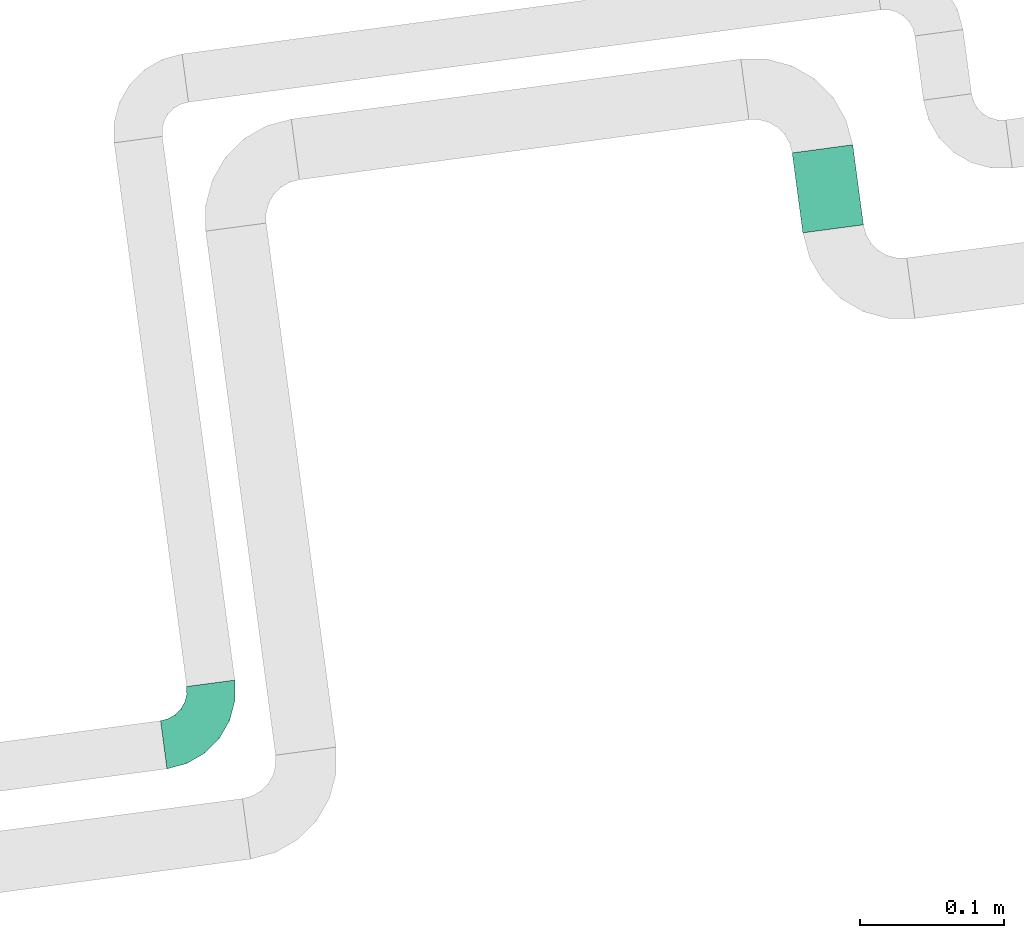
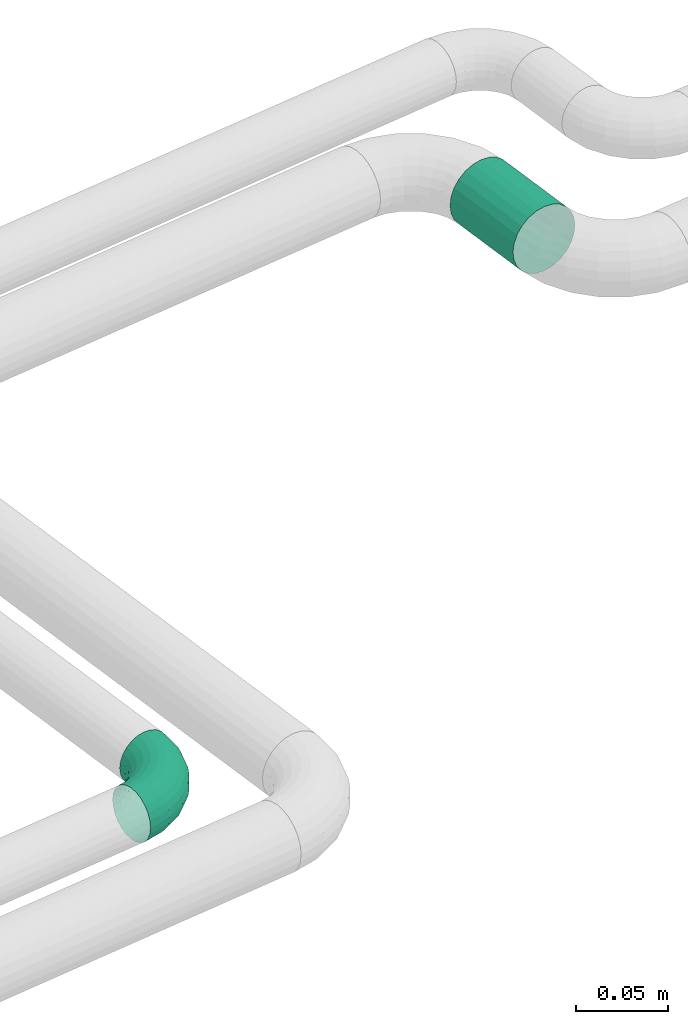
# One storey, part 358 of 374: 2 flow segments.
"""IFC2X3 building model written with IfcOpenShell, lengths in metres."""

from ifc_helpers import new_model, si_unit, direction, origin, place, context, subcontext, project, spatial, open_shell, surface_model, source, transform, mapped, element, save


model = new_model("IFC2X3")

# Units and contexts
model_context = context("Model", 3, precision=1e-05, world=origin(), true_north=direction((-0.4480736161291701, 0.8939966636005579)))
body_context = subcontext(model_context, "Body", "Model", "MODEL_VIEW")
ifc_project = project(units=[si_unit("LENGTHUNIT", "METRE"), si_unit("AREAUNIT", "SQUARE_METRE"), si_unit("VOLUMEUNIT", "CUBIC_METRE"), si_unit("PLANEANGLEUNIT", "RADIAN"), si_unit("THERMODYNAMICTEMPERATUREUNIT", "KELVIN"), si_unit("MASSUNIT", "GRAM", prefix="KILO"), si_unit("TIMEUNIT", "SECOND")], contexts=[model_context])

# Site, building, storey
site_placement = place(None, origin())
site = spatial("IfcSite", under=ifc_project, at=site_placement, Name="Site 1", CompositionType="ELEMENT")
building_placement = place(site_placement, origin())
building = spatial("IfcBuilding", under=site, at=building_placement, Name="Undefined", CompositionType="ELEMENT")
storey_placement = place(building_placement, origin())
storey = spatial("IfcBuildingStorey", under=building, at=storey_placement, Name="Rez de chauss\x8ee", CompositionType="ELEMENT", Elevation=0.0)

# Flow segments
shared_shape_1 = source(origin(), body_context, "Body", "SurfaceModel", [
    surface_model("IfcFaceBasedSurfaceModel", [(0.0, 0.005534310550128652, 0.0), (0.0, 0.0, 0.0), (0.05599946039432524, 0.0, 0.0), (0.05599946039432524, 0.0055343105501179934, -1.776356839e-15), (0.0, -0.00534573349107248, -0.0014323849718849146), (0.05599946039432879, -0.005345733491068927, -0.0014323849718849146), (0.0, -0.010138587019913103, -0.004199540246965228), (0.055999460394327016, -0.010138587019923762, -0.0041995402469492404), (0.0, -0.01405193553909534, -0.008112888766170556), (0.055999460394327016, -0.01405193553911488, -0.008112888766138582), (0.0, -0.016819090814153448, -0.012905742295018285), (0.05599946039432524, -0.01681909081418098, -0.012905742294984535), (0.0, -0.018251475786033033, -0.018251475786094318), (0.05599946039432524, -0.018251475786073, -0.01825147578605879), (0.0, -0.0182514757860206, -0.02378578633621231), (0.05599946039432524, -0.018251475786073, -0.02378578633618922), (0.0, -0.01681909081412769, -0.029131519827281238), (0.055999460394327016, -0.01681909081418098, -0.029131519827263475), (0.0, -0.014051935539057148, -0.03392437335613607), (0.055999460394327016, -0.01405193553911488, -0.03392437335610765), (0.0, -0.010138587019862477, -0.037837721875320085), (0.05599946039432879, -0.010138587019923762, -0.03783772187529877), (0.0, -0.005345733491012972, -0.040604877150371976), (0.05599946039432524, -0.005345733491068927, -0.040604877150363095), (0.0, 6.4837024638e-14, -0.042037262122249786), (0.05599946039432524, -1.4210854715e-14, -0.042037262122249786), (0.0, 0.005534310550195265, -0.04203726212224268), (0.05599946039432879, 0.0055343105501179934, -0.042037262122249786), (0.0, 0.010880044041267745, -0.04060487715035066), (0.05599946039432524, 0.010880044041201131, -0.04060487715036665), (0.0, 0.01567289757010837, -0.03783772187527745), (0.055999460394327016, 0.015672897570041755, -0.037837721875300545), (0.0, 0.019586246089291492, -0.033924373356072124), (0.055999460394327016, 0.019586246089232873, -0.03392437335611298), (0.0, 0.0223534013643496, -0.029131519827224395), (0.055999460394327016, 0.022353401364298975, -0.029131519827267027), (0.0, 0.02378578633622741, -0.023785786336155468), (0.05599946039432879, 0.023785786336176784, -0.02378578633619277), (0.0, 0.023785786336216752, -0.01825147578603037), (0.055999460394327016, 0.023785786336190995, -0.018251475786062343), (0.0, 0.022353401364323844, -0.012905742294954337), (0.055999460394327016, 0.022353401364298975, -0.012905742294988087), (0.0, 0.019586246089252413, -0.008112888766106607), (0.055999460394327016, 0.019586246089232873, -0.008112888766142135), (0.0, 0.015672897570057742, -0.004199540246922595), (0.05599946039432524, 0.015672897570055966, -0.004199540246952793), (0.0, 0.010880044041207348, -0.0014323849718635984), (0.05599946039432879, 0.01088004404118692, -0.0014323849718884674)], [open_shell([[[0, 1, 2, 3]], [[1, 4, 5, 2]], [[4, 6, 7, 5]], [[6, 8, 9, 7]], [[8, 10, 11, 9]], [[10, 12, 13, 11]], [[12, 14, 15, 13]], [[14, 16, 17, 15]], [[16, 18, 19, 17]], [[18, 20, 21, 19]], [[20, 22, 23, 21]], [[22, 24, 25, 23]], [[24, 26, 27, 25]], [[26, 28, 29, 27]], [[28, 30, 31, 29]], [[30, 32, 33, 31]], [[32, 34, 35, 33]], [[34, 36, 37, 35]], [[36, 38, 39, 37]], [[38, 40, 41, 39]], [[40, 42, 43, 41]], [[42, 44, 45, 43]], [[44, 46, 47, 45]], [[46, 0, 3, 47]]])]),
])
flow_segment_1_placement = place(storey_placement, origin())
element("IfcFlowSegment", 1, at=flow_segment_1_placement, inside=storey, Name="Tube acier d'après DIN 2448", ObjectType="Tube acier d'après DIN 2448", context=body_context, shape_type="MappedRepresentation", body=[
    mapped(shared_shape_1, transform((63.81752799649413, 20.10300291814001, 4.025618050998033), x_axis=(-0.13225639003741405, 0.9912155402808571, 0.0), y_axis=(-0.9827355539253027, -0.1311249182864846, 0.13052619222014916), z_axis=(0.12937959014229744, 0.017262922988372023, 0.9914448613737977))),
])
shared_shape_2 = source(origin(), body_context, "Body", "SurfaceModel", [
    surface_model("IfcFaceBasedSurfaceModel", [(0.014318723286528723, 0.0, 8.8817842e-16), (0.01424378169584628, 0.004398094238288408, 0.0), (7.494159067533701e-05, 0.004398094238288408, 8.8817842e-16), (0.0, 0.0, 0.0), (-0.013611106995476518, 0.004872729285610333, -0.0036363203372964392), (-0.01383082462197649, 0.000479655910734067, -0.003674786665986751), (-0.02588168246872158, 0.005789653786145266, -0.010661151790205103), (-0.026231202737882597, 0.0014062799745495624, -0.010773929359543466), (-0.03590056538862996, 0.007086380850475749, -0.02059576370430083), (-0.036356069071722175, 0.0027167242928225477, -0.020813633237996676), (-0.04298498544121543, 0.008674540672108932, -0.03276312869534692), (-0.0435154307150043, 0.0043216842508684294, -0.03310970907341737), (-0.046652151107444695, 0.010445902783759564, -0.04633406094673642), (-0.04722138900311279, 0.006111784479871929, -0.04682419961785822), (0.01402406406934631, 0.008643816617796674, -0.00112889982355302), (0.0002946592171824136, 0.00864381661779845, -0.001128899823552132), (-0.01296692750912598, 0.009103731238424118, -0.00465244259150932), (-0.02485694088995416, 0.009992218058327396, -0.011459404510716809), (-0.03456509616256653, 0.011248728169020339, -0.021085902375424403), (-0.041429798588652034, 0.012787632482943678, -0.03287590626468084), (-0.04498323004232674, 0.014504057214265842, -0.04602594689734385), (0.013674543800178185, 0.012447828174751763, -0.0033097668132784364), (0.0006441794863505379, 0.012447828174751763, -0.003309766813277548), (-0.011942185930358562, 0.012884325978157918, -0.006653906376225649), (-0.023226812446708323, 0.013727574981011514, -0.01311428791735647), (-0.032440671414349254, 0.014920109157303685, -0.022250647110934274), (-0.038955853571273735, 0.016380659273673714, -0.03344035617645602), (-0.04232836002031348, 0.01800969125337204, -0.04592085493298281), (0.013219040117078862, 0.01555089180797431, -0.006393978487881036), (0.0010996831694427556, 0.015550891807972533, -0.006393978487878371), (-0.010606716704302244, 0.015956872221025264, -0.009504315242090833), (-0.021102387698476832, 0.016741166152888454, -0.01551302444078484), (-0.029672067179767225, 0.01785032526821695, -0.024010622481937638), (-0.035731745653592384, 0.01920876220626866, -0.03441801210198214), (-0.038868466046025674, 0.02072390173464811, -0.04602594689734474), (0.012688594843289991, 0.01774153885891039, -0.010171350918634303), (0.0016301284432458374, 0.01774153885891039, -0.010171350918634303), (-0.009051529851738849, 0.018111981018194, -0.013009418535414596), (-0.01862844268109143, 0.01882762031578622, -0.018492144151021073), (-0.026447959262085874, 0.019839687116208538, -0.02624588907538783), (-0.03197719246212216, 0.021079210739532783, -0.03574224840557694), (-0.034839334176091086, 0.022461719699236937, -0.04633406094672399), (0.012119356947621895, 0.018870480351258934, -0.014384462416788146), (0.0021993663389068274, 0.018870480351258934, -0.014384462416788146), (-0.007382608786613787, 0.019202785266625, -0.016930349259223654), (-0.015973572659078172, 0.019844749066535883, -0.021848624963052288), (-0.022988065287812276, 0.020752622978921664, -0.02880411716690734), (-0.027948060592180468, 0.021864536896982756, -0.03732282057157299), (-0.030515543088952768, 0.023104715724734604, -0.04682419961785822), (0.0115501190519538, 0.018860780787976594, -0.01874619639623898), (0.002768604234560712, 0.018860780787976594, -0.01874619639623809), (-0.005713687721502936, 0.019154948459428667, -0.020999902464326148), (-0.013318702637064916, 0.01972323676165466, -0.025353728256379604), (-0.019528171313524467, 0.02052691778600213, -0.03151096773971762), (-0.023918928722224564, 0.021511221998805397, -0.03905201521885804), (-0.02619175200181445, 0.02260907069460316, -0.04746296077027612), (0.011019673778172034, 0.01771310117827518, -0.022959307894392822), (0.0032990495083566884, 0.01771310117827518, -0.022959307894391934), (-0.004158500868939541, 0.017971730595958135, -0.0249407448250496), (-0.010844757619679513, 0.018471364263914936, -0.028768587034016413), (-0.01630406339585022, 0.019177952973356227, -0.03418197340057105), (-0.020164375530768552, 0.0200433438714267, -0.04081199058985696), (-0.022162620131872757, 0.02100856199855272, -0.04820681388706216), (0.010564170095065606, 0.015505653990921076, -0.02673668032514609), (0.0037545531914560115, 0.015505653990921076, -0.0267366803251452), (-0.002823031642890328, 0.01573376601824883, -0.028484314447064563), (-0.008720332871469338, 0.016174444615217, -0.03186048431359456), (-0.01353545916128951, 0.016797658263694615, -0.036635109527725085), (-0.016940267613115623, 0.017560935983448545, -0.042482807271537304), (-0.018702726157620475, 0.01841226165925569, -0.04900506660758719), (0.010214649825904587, 0.012388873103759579, -0.029820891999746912), (0.004104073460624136, 0.012388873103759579, -0.029820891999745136), (-0.0017982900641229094, 0.012593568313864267, -0.03138912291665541), (-0.007090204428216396, 0.012989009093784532, -0.03441871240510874), (-0.011411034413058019, 0.013548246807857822, -0.0387031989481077), (-0.014466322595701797, 0.014233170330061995, -0.04395060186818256), (-0.01604785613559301, 0.014997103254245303, -0.0498033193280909), (0.009994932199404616, 0.008575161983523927, -0.03200175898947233), (0.004323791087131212, 0.00857516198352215, -0.03200175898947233), (-0.001154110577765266, 0.00876513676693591, -0.03345721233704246), (-0.006065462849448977, 0.009132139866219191, -0.03626893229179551), (-0.0100755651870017, 0.009651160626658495, -0.04024530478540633), (-0.012911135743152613, 0.010286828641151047, -0.04511534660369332), (-0.014378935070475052, 0.010995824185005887, -0.05054717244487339), (0.009919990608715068, 0.004324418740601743, -0.03313065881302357), (0.004398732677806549, 0.004324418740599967, -0.03313065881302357), (-0.0009343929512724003, 0.004509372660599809, -0.03454764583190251), (-0.005715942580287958, 0.004866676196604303, -0.03728505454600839), (-0.009620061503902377, 0.005371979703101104, -0.041156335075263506), (-0.012380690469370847, 0.005990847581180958, -0.04589766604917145), (-0.013809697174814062, 0.006681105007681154, -0.05118593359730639), (0.009994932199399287, -7.367549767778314e-05, -0.033130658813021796), (0.004323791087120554, -7.367549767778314e-05, -0.033130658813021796), (-0.0011541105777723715, 0.00011629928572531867, -0.03458611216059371), (-0.0011541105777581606, 0.0001162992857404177, -0.03458611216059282), (-0.0060654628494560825, 0.00048330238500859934, -0.03739783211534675), (-0.010075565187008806, 0.0010023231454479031, -0.04137420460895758), (-0.012911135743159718, 0.001637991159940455, -0.04624424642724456), (-0.014378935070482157, 0.002346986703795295, -0.05167607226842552), (0.010214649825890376, -0.004319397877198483, -0.03200175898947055), (0.00410407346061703, -0.0043193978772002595, -0.03200175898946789), (-0.0017982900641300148, -0.004114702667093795, -0.03356998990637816), (-0.007090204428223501, -0.0037192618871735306, -0.036599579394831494), (-0.011411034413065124, -0.00316002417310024, -0.04088406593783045), (-0.014466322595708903, -0.002475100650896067, -0.04613146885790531), (-0.016047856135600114, -0.0017111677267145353, -0.05198418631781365), (0.0105641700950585, -0.008123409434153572, -0.029820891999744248), (0.003754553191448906, -0.008123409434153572, -0.02982089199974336), (-0.0028230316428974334, -0.007895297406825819, -0.03156852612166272), (-0.008720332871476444, -0.007454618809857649, -0.03494469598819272), (-0.013535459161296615, -0.006831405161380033, -0.03971932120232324), (-0.016940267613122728, -0.006068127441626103, -0.04556701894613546), (-0.01870272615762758, -0.005216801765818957, -0.05208927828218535), (0.011019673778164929, -0.011226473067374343, -0.026736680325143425), (0.003299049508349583, -0.011226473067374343, -0.026736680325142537), (-0.004158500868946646, -0.010967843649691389, -0.028718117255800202), (-0.010844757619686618, -0.010468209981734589, -0.032545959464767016), (-0.016304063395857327, -0.009761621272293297, -0.037959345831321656), (-0.020164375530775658, -0.008896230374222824, -0.044589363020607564), (-0.022162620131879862, -0.007931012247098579, -0.051984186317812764), (0.011550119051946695, -0.013417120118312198, -0.02295930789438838), (0.0027686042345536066, -0.013417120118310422, -0.022959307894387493), (-0.005713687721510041, -0.013122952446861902, -0.02521301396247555), (-0.013318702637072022, -0.012554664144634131, -0.029566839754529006), (-0.019528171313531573, -0.011750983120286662, -0.035724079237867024), (-0.02391892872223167, -0.010766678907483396, -0.04326512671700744), (-0.026191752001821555, -0.009668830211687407, -0.05167607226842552), (0.01211935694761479, -0.014546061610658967, -0.018746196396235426), (0.002199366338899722, -0.014546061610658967, -0.018746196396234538), (-0.007382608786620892, -0.0142137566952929, -0.021292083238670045), (-0.015973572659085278, -0.013571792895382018, -0.02621035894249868), (-0.02298806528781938, -0.012663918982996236, -0.03316585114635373), (-0.027948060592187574, -0.011552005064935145, -0.04168455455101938), (-0.030515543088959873, -0.010311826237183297, -0.05118593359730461), (0.012688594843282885, -0.014536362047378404, -0.014384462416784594), (0.001630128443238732, -0.014536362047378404, -0.014384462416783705), (-0.009051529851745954, -0.014165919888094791, -0.017222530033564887), (-0.018628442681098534, -0.013450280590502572, -0.022705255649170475), (-0.02644795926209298, -0.012438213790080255, -0.03045900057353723), (-0.03197719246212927, -0.011198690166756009, -0.03995535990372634), (-0.03483933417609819, -0.009816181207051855, -0.05054717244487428), (0.013219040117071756, -0.013388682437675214, -0.010171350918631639), (0.0010996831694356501, -0.01338868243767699, -0.010171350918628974), (-0.010606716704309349, -0.01298270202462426, -0.013281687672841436), (-0.021102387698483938, -0.01219840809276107, -0.019290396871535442), (-0.02967206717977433, -0.011089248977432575, -0.02778799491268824), (-0.03573174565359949, -0.009730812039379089, -0.038195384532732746), (-0.03886846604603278, -0.008215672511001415, -0.04980331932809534), (0.01367454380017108, -0.011181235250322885, -0.006393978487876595), (0.0006441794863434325, -0.011181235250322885, -0.006393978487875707), (-0.011942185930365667, -0.01074473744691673, -0.009738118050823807), (-0.023226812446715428, -0.009901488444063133, -0.01619849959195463), (-0.03244067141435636, -0.008708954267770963, -0.02533485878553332), (-0.03895585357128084, -0.007248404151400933, -0.03652456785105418), (-0.04232836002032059, -0.005619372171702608, -0.04900506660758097), (0.014024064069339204, -0.008064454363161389, -0.003309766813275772), (0.0002946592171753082, -0.008064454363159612, -0.0033097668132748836), (-0.012966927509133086, -0.0076045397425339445, -0.006833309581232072), (-0.024856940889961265, -0.0067160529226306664, -0.01364027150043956), (-0.03456509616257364, -0.005459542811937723, -0.023266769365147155), (-0.04142979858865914, -0.003920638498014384, -0.03505677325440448), (-0.044983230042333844, -0.00220421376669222, -0.0482068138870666), (0.014243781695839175, -0.004250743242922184, -0.0011288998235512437), (7.494159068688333e-05, -0.004250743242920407, -0.0011288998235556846), (-0.013611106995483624, -0.0037761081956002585, -0.004765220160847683), (-0.025881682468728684, -0.002859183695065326, -0.011790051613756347), (-0.03590056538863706, -0.001562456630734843, -0.021724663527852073), (-0.04298498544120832, 2.5703190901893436e-05, -0.033892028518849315), (-0.0466521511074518, 0.0017970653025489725, -0.047462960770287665), (7.494159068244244e-05, -0.004250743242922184, -0.0011288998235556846)], [open_shell([[[0, 1, 2, 3]], [[3, 2, 4, 5]], [[5, 4, 6, 7]], [[7, 6, 8, 9]], [[9, 8, 10, 11]], [[11, 10, 12, 13]], [[1, 14, 15, 2]], [[2, 15, 16, 4]], [[4, 16, 17, 6]], [[6, 17, 18, 8]], [[8, 18, 19, 10]], [[10, 19, 20, 12]], [[14, 21, 22, 15]], [[15, 22, 23, 16]], [[16, 23, 24, 17]], [[17, 24, 25, 18]], [[18, 25, 26, 19]], [[19, 26, 27, 20]], [[21, 28, 29, 22]], [[22, 29, 30, 23]], [[23, 30, 31, 24]], [[24, 31, 32, 25]], [[25, 32, 33, 26]], [[26, 33, 34, 27]], [[28, 35, 36, 29]], [[29, 36, 37, 30]], [[30, 37, 38, 31]], [[31, 38, 39, 32]], [[32, 39, 40, 33]], [[33, 40, 41, 34]], [[35, 42, 43, 36]], [[36, 43, 44, 37]], [[37, 44, 45, 38]], [[38, 45, 46, 39]], [[39, 46, 47, 40]], [[40, 47, 48, 41]], [[42, 49, 50, 43]], [[43, 50, 51, 44]], [[44, 51, 52, 45]], [[45, 52, 53, 46]], [[46, 53, 54, 47]], [[47, 54, 55, 48]], [[49, 56, 57, 50]], [[50, 57, 58, 51]], [[51, 58, 59, 52]], [[52, 59, 60, 53]], [[53, 60, 61, 54]], [[54, 61, 62, 55]], [[56, 63, 64, 57]], [[57, 64, 65, 58]], [[58, 65, 66, 59]], [[59, 66, 67, 60]], [[60, 67, 68, 61]], [[61, 68, 69, 62]], [[63, 70, 71, 64]], [[64, 71, 72, 65]], [[65, 72, 73, 66]], [[66, 73, 74, 67]], [[67, 74, 75, 68]], [[68, 75, 76, 69]], [[70, 77, 78, 71]], [[71, 78, 79, 72]], [[72, 79, 80, 73]], [[73, 80, 81, 74]], [[74, 81, 82, 75]], [[75, 82, 83, 76]], [[77, 84, 85, 78]], [[78, 85, 86, 79]], [[79, 86, 87, 80]], [[80, 87, 88, 81]], [[81, 88, 89, 82]], [[82, 89, 90, 83]], [[84, 91, 92, 85]], [[85, 92, 93, 86]], [[86, 94, 95, 87]], [[87, 95, 96, 88]], [[88, 96, 97, 89]], [[89, 97, 98, 90]], [[91, 99, 100, 92]], [[92, 100, 101, 93]], [[94, 101, 102, 95]], [[95, 102, 103, 96]], [[96, 103, 104, 97]], [[97, 104, 105, 98]], [[99, 106, 107, 100]], [[100, 107, 108, 101]], [[101, 108, 109, 102]], [[102, 109, 110, 103]], [[103, 110, 111, 104]], [[104, 111, 112, 105]], [[106, 113, 114, 107]], [[107, 114, 115, 108]], [[108, 115, 116, 109]], [[109, 116, 117, 110]], [[110, 117, 118, 111]], [[111, 118, 119, 112]], [[113, 120, 121, 114]], [[114, 121, 122, 115]], [[115, 122, 123, 116]], [[116, 123, 124, 117]], [[117, 124, 125, 118]], [[118, 125, 126, 119]], [[120, 127, 128, 121]], [[121, 128, 129, 122]], [[122, 129, 130, 123]], [[123, 130, 131, 124]], [[124, 131, 132, 125]], [[125, 132, 133, 126]], [[127, 134, 135, 128]], [[128, 135, 136, 129]], [[129, 136, 137, 130]], [[130, 137, 138, 131]], [[131, 138, 139, 132]], [[132, 139, 140, 133]], [[134, 141, 142, 135]], [[135, 142, 143, 136]], [[136, 143, 144, 137]], [[137, 144, 145, 138]], [[138, 145, 146, 139]], [[139, 146, 147, 140]], [[141, 148, 149, 142]], [[142, 149, 150, 143]], [[143, 150, 151, 144]], [[144, 151, 152, 145]], [[145, 152, 153, 146]], [[146, 153, 154, 147]], [[148, 155, 156, 149]], [[149, 156, 157, 150]], [[150, 157, 158, 151]], [[151, 158, 159, 152]], [[152, 159, 160, 153]], [[153, 160, 161, 154]], [[155, 162, 163, 156]], [[156, 163, 164, 157]], [[157, 164, 165, 158]], [[158, 165, 166, 159]], [[159, 166, 167, 160]], [[160, 167, 168, 161]], [[162, 0, 3, 163]], [[169, 3, 5, 164]], [[164, 5, 7, 165]], [[165, 7, 9, 166]], [[166, 9, 11, 167]], [[167, 11, 13, 168]]])]),
])
flow_segment_2_placement = place(storey_placement, origin())
element("IfcFlowSegment", 2, at=flow_segment_2_placement, inside=storey, Name="Tube coudé", ObjectType="Tube coudé", context=body_context, shape_type="MappedRepresentation", body=[
    mapped(shared_shape_2, transform((63.39673347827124, 19.77463042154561, 4.005140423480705), x_axis=(-0.0017453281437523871, 0.9999984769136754, 6.2029162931e-14), y_axis=(-0.12942811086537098, -0.00022589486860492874, 0.9915887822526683), z_axis=(0.9915872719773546, 0.0017306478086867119, 0.12942830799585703))),
])

save(model, "model.ifc")
